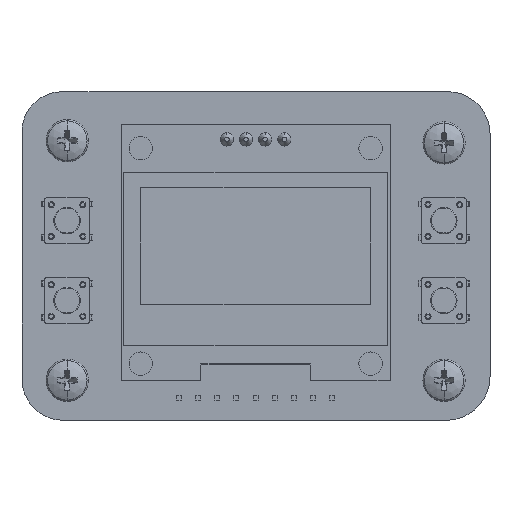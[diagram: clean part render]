
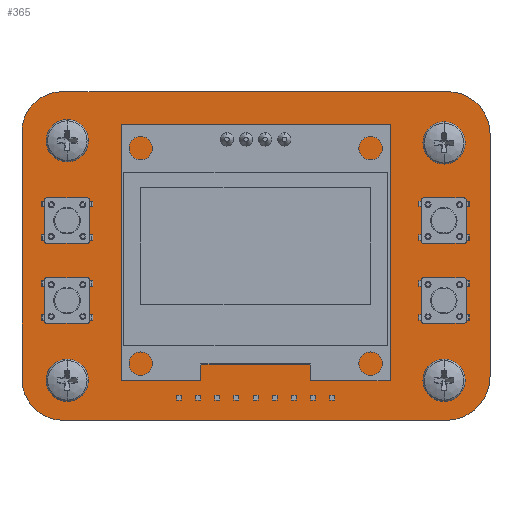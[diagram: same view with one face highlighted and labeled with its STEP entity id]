
A CAD part, top view. The second image highlights one B-rep face of the part: STEP entity #365.
In plain terms, the highlighted planar face has unit normal (0, 0, 1).
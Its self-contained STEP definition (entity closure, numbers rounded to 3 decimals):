
#100 = VERTEX_POINT('',#101);
#101 = CARTESIAN_POINT('',(5.465,0.,0.411));
#107 = EDGE_CURVE('',#100,#108,#110,.T.);
#108 = VERTEX_POINT('',#109);
#109 = CARTESIAN_POINT('',(56.3,0.,0.411));
#110 = LINE('',#111,#112);
#111 = CARTESIAN_POINT('',(5.465,0.,0.411));
#112 = VECTOR('',#113,1.);
#113 = DIRECTION('',(1.,0.,0.));
#138 = EDGE_CURVE('',#108,#139,#141,.T.);
#139 = VERTEX_POINT('',#140);
#140 = CARTESIAN_POINT('',(62.1,5.8,0.411));
#141 = CIRCLE('',#142,5.801);
#142 = AXIS2_PLACEMENT_3D('',#143,#144,#145);
#143 = CARTESIAN_POINT('',(56.299,5.801,0.411));
#144 = DIRECTION('',(0.,0.,1.));
#145 = DIRECTION('',(0.,-1.,0.));
#171 = EDGE_CURVE('',#139,#172,#174,.T.);
#172 = VERTEX_POINT('',#173);
#173 = CARTESIAN_POINT('',(62.1,38.,0.411));
#174 = LINE('',#175,#176);
#175 = CARTESIAN_POINT('',(62.1,5.8,0.411));
#176 = VECTOR('',#177,1.);
#177 = DIRECTION('',(0.,1.,0.));
#202 = EDGE_CURVE('',#172,#203,#205,.T.);
#203 = VERTEX_POINT('',#204);
#204 = CARTESIAN_POINT('',(56.5,43.6,0.411));
#205 = CIRCLE('',#206,5.599);
#206 = AXIS2_PLACEMENT_3D('',#207,#208,#209);
#207 = CARTESIAN_POINT('',(56.501,38.001,0.411));
#208 = DIRECTION('',(0.,0.,1.));
#209 = DIRECTION('',(1.,0.,0.));
#235 = EDGE_CURVE('',#203,#236,#238,.T.);
#236 = VERTEX_POINT('',#237);
#237 = CARTESIAN_POINT('',(5.3,43.6,0.411));
#238 = LINE('',#239,#240);
#239 = CARTESIAN_POINT('',(56.5,43.6,0.411));
#240 = VECTOR('',#241,1.);
#241 = DIRECTION('',(-1.,0.,0.));
#266 = EDGE_CURVE('',#236,#267,#269,.T.);
#267 = VERTEX_POINT('',#268);
#268 = CARTESIAN_POINT('',(0.,38.3,0.411)
  );
#269 = CIRCLE('',#270,5.299);
#270 = AXIS2_PLACEMENT_3D('',#271,#272,#273);
#271 = CARTESIAN_POINT('',(5.299,38.301,0.411));
#272 = DIRECTION('',(0.,0.,1.));
#273 = DIRECTION('',(0.,1.,0.));
#299 = EDGE_CURVE('',#267,#300,#302,.T.);
#300 = VERTEX_POINT('',#301);
#301 = CARTESIAN_POINT('',(0.,5.465,0.411));
#302 = LINE('',#303,#304);
#303 = CARTESIAN_POINT('',(0.,38.3,0.411));
#304 = VECTOR('',#305,1.);
#305 = DIRECTION('',(0.,-1.,0.));
#330 = EDGE_CURVE('',#300,#100,#331,.T.);
#331 = CIRCLE('',#332,5.466);
#332 = AXIS2_PLACEMENT_3D('',#333,#334,#335);
#333 = CARTESIAN_POINT('',(5.466,5.466,0.411));
#334 = DIRECTION('',(0.,0.,1.));
#335 = DIRECTION('',(-1.,0.,0.));
#365 = ADVANCED_FACE('',(#366),#376,.F.);
#366 = FACE_BOUND('',#367,.T.);
#367 = EDGE_LOOP('',(#368,#369,#370,#371,#372,#373,#374,#375));
#368 = ORIENTED_EDGE('',*,*,#107,.T.);
#369 = ORIENTED_EDGE('',*,*,#138,.T.);
#370 = ORIENTED_EDGE('',*,*,#171,.T.);
#371 = ORIENTED_EDGE('',*,*,#202,.T.);
#372 = ORIENTED_EDGE('',*,*,#235,.T.);
#373 = ORIENTED_EDGE('',*,*,#266,.T.);
#374 = ORIENTED_EDGE('',*,*,#299,.T.);
#375 = ORIENTED_EDGE('',*,*,#330,.T.);
#376 = PLANE('',#377);
#377 = AXIS2_PLACEMENT_3D('',#378,#379,#380);
#378 = CARTESIAN_POINT('',(5.465,0.,0.411));
#379 = DIRECTION('',(0.,0.,-1.));
#380 = DIRECTION('',(-1.,0.,0.));
